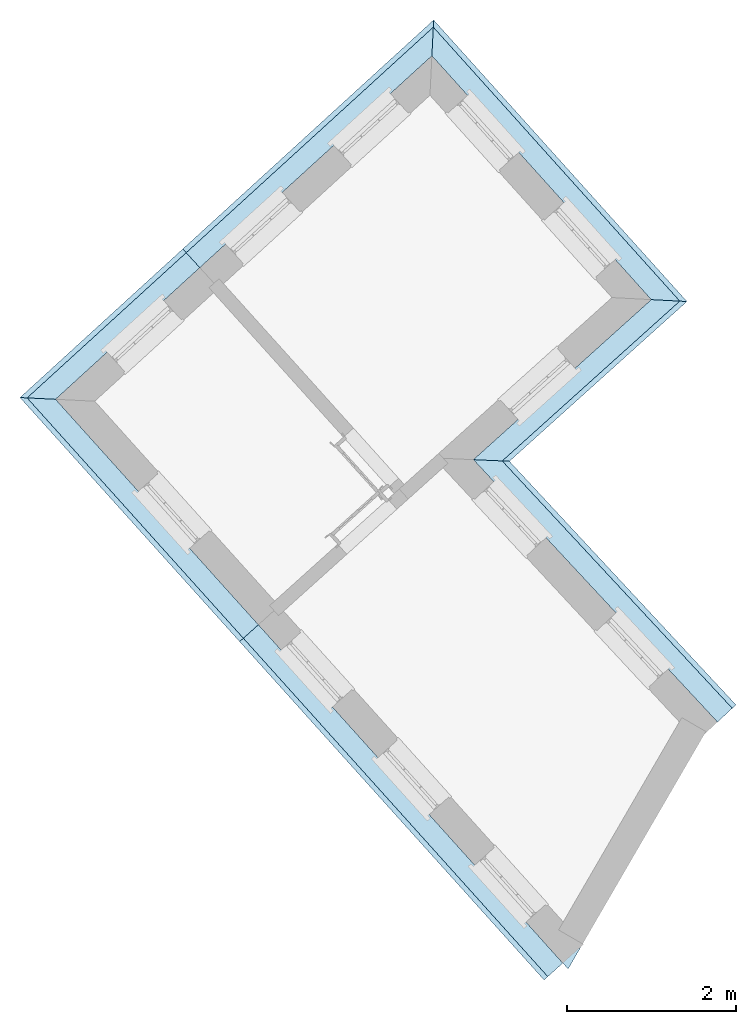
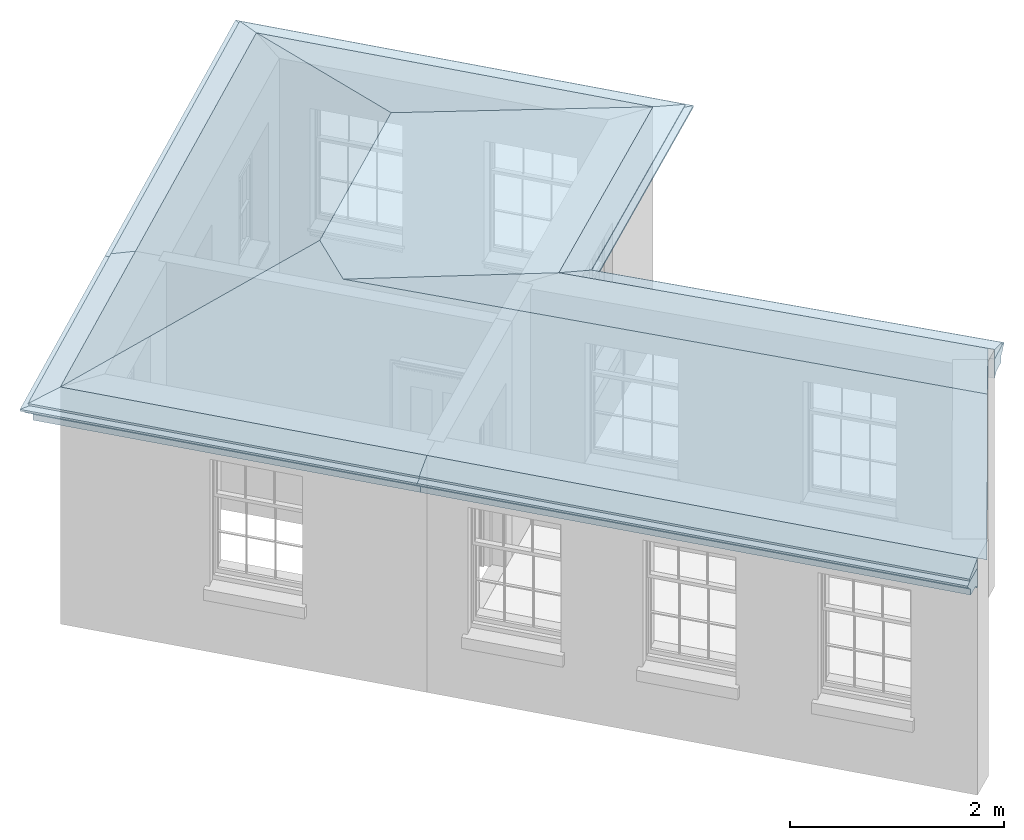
# One storey, part 3 of 3: 15 roofs.
"""IFC4 building model written with IfcOpenShell, lengths in metres."""

from ifc_helpers import new_model, si_unit, frame, origin, origin_with_axes, place, context, subcontext, project, spatial, polyline, outline, extrude, boolean, clip, halfspace, faceted_brep, material_profile, profile_set, profile_usage, type_object, element, save


model = new_model("IFC4")

# Units and contexts
model_context = context("Model", 3, world=origin_with_axes())
body_context = subcontext(model_context, "Body", "Model", "MODEL_VIEW")
ifc_project = project(units=[si_unit("PLANEANGLEUNIT", "RADIAN"), si_unit("MASSUNIT", "GRAM", prefix="KILO"), si_unit("FORCEUNIT", "NEWTON", prefix="KILO"), si_unit("LENGTHUNIT", "METRE"), si_unit("AREAUNIT", "SQUARE_METRE"), si_unit("VOLUMEUNIT", "CUBIC_METRE")], contexts=[model_context, model_context])

# Sites, building, storey
site_1_placement = place(None, origin_with_axes())
site_1 = spatial("IfcSite", under=ifc_project, at=site_1_placement, Name="Tamar")
site_2_placement = place(site_1_placement, origin_with_axes())
site_2 = spatial("IfcSite", under=site_1, at=site_2_placement, Name="Site plot-7", CompositionType="ELEMENT")
building_placement = place(None, origin_with_axes())
building = spatial("IfcBuilding", under=site_2, at=building_placement, Name="Building plot-7", CompositionType="ELEMENT")
storey_placement = place(None, frame((0.0, 0.0, 31.85), z_axis=(0.0, 0.0, 1.0), x_axis=(1.0, 0.0, 0.0)))
storey = spatial("IfcBuildingStorey", under=building, at=storey_placement, Name="plot-7 2", CompositionType="ELEMENT", Elevation=31.85)

# Roofs
ifc_material_profile_1 = material_profile(None, outline(polyline([(0.25, -0.11), (0.25, -0.33), (0.265, -0.33), (0.268, -0.318), (0.274, -0.309), (0.283, -0.303), (0.295, -0.3), (0.295, -0.285), (0.455, -0.285), (0.455, -0.205), (0.47, -0.205), (0.47, -0.19), (0.483, -0.189), (0.494, -0.186), (0.506, -0.179), (0.514, -0.17), (0.52, -0.16), (0.529, -0.149), (0.539, -0.143), (0.55, -0.14), (0.55, -0.12), (0.48, -0.11), (0.25, -0.11)])))
ifc_profile_set_1 = profile_set([ifc_material_profile_1])
ifc_profile_usage_1 = profile_usage(ifc_profile_set_1)
roof_type_1 = type_object("IfcRoofType", Name="eaves_0", PredefinedType="FREEFORM", material=ifc_profile_set_1)
roof_1_placement = place(storey_placement, frame((243.040089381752, 287.183568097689, 2.7), z_axis=(0.68108177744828, -0.732207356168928, 0.0), x_axis=(0.732207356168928, 0.68108177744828, 0.0)))
element("IfcRoof", 1, at=roof_1_placement, inside=storey, type_object=roof_type_1, material=ifc_profile_usage_1, Name="eaves_0", context=body_context, shape_type="Clipping", body=[
    clip(clip(extrude(outline(polyline([(0.25, -0.11), (0.25, -0.33), (0.265, -0.33), (0.268, -0.318), (0.274, -0.309), (0.283, -0.303), (0.295, -0.3), (0.295, -0.285), (0.455, -0.285), (0.455, -0.205), (0.47, -0.205), (0.47, -0.19), (0.483, -0.189), (0.494, -0.186), (0.506, -0.179), (0.514, -0.17), (0.52, -0.16), (0.529, -0.149), (0.539, -0.143), (0.55, -0.14), (0.55, -0.12), (0.48, -0.11), (0.25, -0.11)])), origin_with_axes(), (0.0, 0.0, 1.0), 6.5064128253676), halfspace(frame((0.0, 0.0, 5.5064128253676), z_axis=(-4.50212443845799e-15, 0.0, -1.0), x_axis=(0.0, 1.0, 0.0)), True)), halfspace(frame((0.0, 0.0, 1.0), z_axis=(0.712941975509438, 0.0, -0.701223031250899), x_axis=(0.0, 1.0, 0.0)), False)),
])
ifc_profile_usage_2 = profile_usage(ifc_profile_set_1)
roof_2_placement = place(storey_placement, frame((246.578035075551, 289.021766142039, 2.7), z_axis=(-0.743394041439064, -0.668853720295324, 0.0), x_axis=(0.668853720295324, -0.743394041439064, 0.0)))
element("IfcRoof", 2, at=roof_2_placement, inside=storey, type_object=roof_type_1, material=ifc_profile_usage_2, Name="eaves_0", context=body_context, shape_type="Clipping", body=[
    clip(clip(extrude(outline(polyline([(0.25, -0.11), (0.25, -0.33), (0.265, -0.33), (0.268, -0.318), (0.274, -0.309), (0.283, -0.303), (0.295, -0.3), (0.295, -0.285), (0.455, -0.285), (0.455, -0.205), (0.47, -0.205), (0.47, -0.19), (0.483, -0.189), (0.494, -0.186), (0.506, -0.179), (0.514, -0.17), (0.52, -0.16), (0.529, -0.149), (0.539, -0.143), (0.55, -0.14), (0.55, -0.12), (0.48, -0.11), (0.25, -0.11)])), origin_with_axes(), (0.0, 0.0, 1.0), 4.84300082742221), halfspace(frame((0.0, 0.0, 3.84300082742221), z_axis=(-0.712941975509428, 0.0, -0.70122303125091), x_axis=(0.0, 1.0, 0.0)), True)), halfspace(frame((0.0, 0.0, 1.0), z_axis=(-0.707106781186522, 0.0, -0.707106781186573), x_axis=(0.0, 1.0, 0.0)), False)),
])
ifc_profile_usage_3 = profile_usage(ifc_profile_set_1)
roof_3_placement = place(storey_placement, frame((242.898752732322, 291.615990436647, 2.7), z_axis=(0.668853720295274, -0.743394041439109, 0.0), x_axis=(0.743394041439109, 0.668853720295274, 0.0)))
element("IfcRoof", 3, at=roof_3_placement, inside=storey, type_object=roof_type_1, material=ifc_profile_usage_3, Name="eaves_0", context=body_context, shape_type="Clipping", body=[
    clip(clip(extrude(outline(polyline([(0.25, -0.11), (0.25, -0.33), (0.265, -0.33), (0.268, -0.318), (0.274, -0.309), (0.283, -0.303), (0.295, -0.3), (0.295, -0.285), (0.455, -0.285), (0.455, -0.205), (0.47, -0.205), (0.47, -0.19), (0.483, -0.189), (0.494, -0.186), (0.506, -0.179), (0.514, -0.17), (0.52, -0.16), (0.529, -0.149), (0.539, -0.143), (0.55, -0.14), (0.55, -0.12), (0.48, -0.11), (0.25, -0.11)])), origin_with_axes(), (0.0, 0.0, 1.0), 5.38943256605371), halfspace(frame((0.0, 0.0, 4.38943256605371), z_axis=(0.707106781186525, 0.0, -0.70710678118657), x_axis=(0.0, 1.0, 0.0)), True)), halfspace(frame((0.0, 0.0, 1.0), z_axis=(-0.709619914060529, 0.0, -0.704584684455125), x_axis=(0.0, 1.0, 0.0)), False)),
])
ifc_profile_usage_4 = profile_usage(ifc_profile_set_1)
roof_4_placement = place(storey_placement, frame((240.261399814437, 287.855026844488, 2.7), z_axis=(0.738612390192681, 0.674130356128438, 0.0), x_axis=(-0.674130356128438, 0.738612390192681, 0.0)))
element("IfcRoof", 4, at=roof_4_placement, inside=storey, type_object=roof_type_1, material=ifc_profile_usage_4, Name="eaves_0", context=body_context, shape_type="Clipping", body=[
    clip(clip(extrude(outline(polyline([(0.25, -0.11), (0.25, -0.33), (0.265, -0.33), (0.268, -0.318), (0.274, -0.309), (0.283, -0.303), (0.295, -0.3), (0.295, -0.285), (0.455, -0.285), (0.455, -0.205), (0.47, -0.205), (0.47, -0.19), (0.483, -0.189), (0.494, -0.186), (0.506, -0.179), (0.514, -0.17), (0.52, -0.16), (0.529, -0.149), (0.539, -0.143), (0.55, -0.14), (0.55, -0.12), (0.48, -0.11), (0.25, -0.11)])), origin_with_axes(), (0.0, 0.0, 1.0), 5.47624042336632), halfspace(frame((0.0, 0.0, 4.47624042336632), z_axis=(0.709619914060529, 0.0, -0.704584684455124), x_axis=(0.0, 1.0, 0.0)), True)), halfspace(frame((0.0, 0.0, 1.0), z_axis=(-2.13775144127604e-14, 0.0, -1.0), x_axis=(0.0, 1.0, 0.0)), False)),
])
ifc_profile_usage_5 = profile_usage(ifc_profile_set_1)
roof_5_placement = place(storey_placement, frame((238.733341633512, 286.460370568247, 2.7), z_axis=(0.738612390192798, 0.67413035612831, 0.0), x_axis=(-0.67413035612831, 0.738612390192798, 0.0)))
element("IfcRoof", 5, at=roof_5_placement, inside=storey, type_object=roof_type_1, material=ifc_profile_usage_5, Name="eaves_0", context=body_context, shape_type="Clipping", body=[
    clip(clip(extrude(outline(polyline([(0.25, -0.11), (0.25, -0.33), (0.265, -0.33), (0.268, -0.318), (0.274, -0.309), (0.283, -0.303), (0.295, -0.3), (0.295, -0.285), (0.455, -0.285), (0.455, -0.205), (0.47, -0.205), (0.47, -0.19), (0.483, -0.189), (0.494, -0.186), (0.506, -0.179), (0.514, -0.17), (0.52, -0.16), (0.529, -0.149), (0.539, -0.143), (0.55, -0.14), (0.55, -0.12), (0.48, -0.11), (0.25, -0.11)])), origin_with_axes(), (0.0, 0.0, 1.0), 4.0688228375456), halfspace(frame((0.0, 0.0, 3.0688228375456), z_axis=(-1.94572306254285e-13, 0.0, -1.0), x_axis=(0.0, 1.0, 0.0)), True)), halfspace(frame((0.0, 0.0, 1.0), z_axis=(-0.704584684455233, 0.0, -0.709619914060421), x_axis=(0.0, 1.0, 0.0)), False)),
])
ifc_profile_usage_6 = profile_usage(ifc_profile_set_1)
roof_6_placement = place(storey_placement, frame((242.381432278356, 283.900776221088, 2.7), z_axis=(-0.668853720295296, 0.743394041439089, 0.0), x_axis=(-0.743394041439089, -0.668853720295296, 0.0)))
element("IfcRoof", 6, at=roof_6_placement, inside=storey, type_object=roof_type_1, material=ifc_profile_usage_6, Name="eaves_0", context=body_context, shape_type="Clipping", body=[
    clip(clip(extrude(outline(polyline([(0.25, -0.11), (0.25, -0.33), (0.265, -0.33), (0.268, -0.318), (0.274, -0.309), (0.283, -0.303), (0.295, -0.3), (0.295, -0.285), (0.455, -0.285), (0.455, -0.205), (0.47, -0.205), (0.47, -0.19), (0.483, -0.189), (0.494, -0.186), (0.506, -0.179), (0.514, -0.17), (0.52, -0.16), (0.529, -0.149), (0.539, -0.143), (0.55, -0.14), (0.55, -0.12), (0.48, -0.11), (0.25, -0.11)])), origin_with_axes(), (0.0, 0.0, 1.0), 5.34994703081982), halfspace(frame((0.0, 0.0, 4.34994703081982), z_axis=(0.70458468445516, 0.0, -0.709619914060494), x_axis=(0.0, 1.0, 0.0)), True)), halfspace(frame((0.0, 0.0, 1.0), z_axis=(-2.49302280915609e-14, 0.0, -1.0), x_axis=(0.0, 1.0, 0.0)), False)),
])
ifc_profile_usage_7 = profile_usage(ifc_profile_set_1)
roof_7_placement = place(storey_placement, frame((245.993584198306, 279.886068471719, 2.7), z_axis=(-0.668853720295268, 0.743394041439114, 0.0), x_axis=(-0.743394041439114, -0.668853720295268, 0.0)))
element("IfcRoof", 7, at=roof_7_placement, inside=storey, type_object=roof_type_1, material=ifc_profile_usage_7, Name="eaves_0", context=body_context, shape_type="Clipping", body=[
    clip(clip(extrude(outline(polyline([(0.25, -0.11), (0.25, -0.33), (0.265, -0.33), (0.268, -0.318), (0.274, -0.309), (0.283, -0.303), (0.295, -0.3), (0.295, -0.285), (0.455, -0.285), (0.455, -0.205), (0.47, -0.205), (0.47, -0.19), (0.483, -0.189), (0.494, -0.186), (0.506, -0.179), (0.514, -0.17), (0.52, -0.16), (0.529, -0.149), (0.539, -0.143), (0.55, -0.14), (0.55, -0.12), (0.48, -0.11), (0.25, -0.11)])), origin_with_axes(), (0.0, 0.0, 1.0), 7.4005110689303), halfspace(frame((0.0, 0.0, 6.4005110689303), z_axis=(-6.22337217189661e-14, 0.0, -1.0), x_axis=(0.0, 1.0, 0.0)), True)), halfspace(frame((0.0, 0.0, 1.0), z_axis=(-9.49410759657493e-16, 0.0, -1.0), x_axis=(0.0, 1.0, 0.0)), False)),
])
ifc_material_profile_2 = material_profile(None, outline(polyline([(0.25, -0.11), (0.48, -0.11), (0.49, -0.08), (0.25, 0.0), (0.25, -0.11)])))
ifc_profile_set_2 = profile_set([ifc_material_profile_2])
ifc_profile_usage_8 = profile_usage(ifc_profile_set_2)
roof_type_2 = type_object("IfcRoofType", Name="eaves_1", PredefinedType="FREEFORM", material=ifc_profile_set_2)
roof_8_placement = place(storey_placement, frame((243.040089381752, 287.183568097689, 2.7), z_axis=(0.68108177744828, -0.732207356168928, 0.0), x_axis=(0.732207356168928, 0.68108177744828, 0.0)))
element("IfcRoof", 8, at=roof_8_placement, inside=storey, type_object=roof_type_2, material=ifc_profile_usage_8, Name="eaves_1", context=body_context, shape_type="Clipping", body=[
    clip(clip(extrude(outline(polyline([(0.25, -0.11), (0.48, -0.11), (0.49, -0.08), (0.25, 0.0), (0.25, -0.11)])), origin_with_axes(), (0.0, 0.0, 1.0), 6.5064128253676), halfspace(frame((0.0, 0.0, 5.5064128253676), z_axis=(-4.50212443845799e-15, 0.0, -1.0), x_axis=(0.0, 1.0, 0.0)), True)), halfspace(frame((0.0, 0.0, 1.0), z_axis=(0.712941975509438, 0.0, -0.701223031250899), x_axis=(0.0, 1.0, 0.0)), False)),
])
ifc_profile_usage_9 = profile_usage(ifc_profile_set_2)
roof_9_placement = place(storey_placement, frame((246.578035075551, 289.021766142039, 2.7), z_axis=(-0.743394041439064, -0.668853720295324, 0.0), x_axis=(0.668853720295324, -0.743394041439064, 0.0)))
element("IfcRoof", 9, at=roof_9_placement, inside=storey, type_object=roof_type_2, material=ifc_profile_usage_9, Name="eaves_1", context=body_context, shape_type="Clipping", body=[
    clip(clip(extrude(outline(polyline([(0.25, -0.11), (0.48, -0.11), (0.49, -0.08), (0.25, 0.0), (0.25, -0.11)])), origin_with_axes(), (0.0, 0.0, 1.0), 4.84300082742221), halfspace(frame((0.0, 0.0, 3.84300082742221), z_axis=(-0.712941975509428, 0.0, -0.70122303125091), x_axis=(0.0, 1.0, 0.0)), True)), halfspace(frame((0.0, 0.0, 1.0), z_axis=(-0.707106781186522, 0.0, -0.707106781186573), x_axis=(0.0, 1.0, 0.0)), False)),
])
ifc_profile_usage_10 = profile_usage(ifc_profile_set_2)
roof_10_placement = place(storey_placement, frame((242.898752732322, 291.615990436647, 2.7), z_axis=(0.668853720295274, -0.743394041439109, 0.0), x_axis=(0.743394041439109, 0.668853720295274, 0.0)))
element("IfcRoof", 10, at=roof_10_placement, inside=storey, type_object=roof_type_2, material=ifc_profile_usage_10, Name="eaves_1", context=body_context, shape_type="Clipping", body=[
    clip(clip(extrude(outline(polyline([(0.25, -0.11), (0.48, -0.11), (0.49, -0.08), (0.25, 0.0), (0.25, -0.11)])), origin_with_axes(), (0.0, 0.0, 1.0), 5.38943256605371), halfspace(frame((0.0, 0.0, 4.38943256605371), z_axis=(0.707106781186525, 0.0, -0.70710678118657), x_axis=(0.0, 1.0, 0.0)), True)), halfspace(frame((0.0, 0.0, 1.0), z_axis=(-0.709619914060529, 0.0, -0.704584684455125), x_axis=(0.0, 1.0, 0.0)), False)),
])
ifc_profile_usage_11 = profile_usage(ifc_profile_set_2)
roof_11_placement = place(storey_placement, frame((240.261399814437, 287.855026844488, 2.7), z_axis=(0.738612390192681, 0.674130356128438, 0.0), x_axis=(-0.674130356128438, 0.738612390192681, 0.0)))
element("IfcRoof", 11, at=roof_11_placement, inside=storey, type_object=roof_type_2, material=ifc_profile_usage_11, Name="eaves_1", context=body_context, shape_type="Clipping", body=[
    clip(clip(extrude(outline(polyline([(0.25, -0.11), (0.48, -0.11), (0.49, -0.08), (0.25, 0.0), (0.25, -0.11)])), origin_with_axes(), (0.0, 0.0, 1.0), 5.47624042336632), halfspace(frame((0.0, 0.0, 4.47624042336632), z_axis=(0.709619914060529, 0.0, -0.704584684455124), x_axis=(0.0, 1.0, 0.0)), True)), halfspace(frame((0.0, 0.0, 1.0), z_axis=(-2.13775144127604e-14, 0.0, -1.0), x_axis=(0.0, 1.0, 0.0)), False)),
])
ifc_profile_usage_12 = profile_usage(ifc_profile_set_2)
roof_12_placement = place(storey_placement, frame((238.733341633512, 286.460370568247, 2.7), z_axis=(0.738612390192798, 0.67413035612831, 0.0), x_axis=(-0.67413035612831, 0.738612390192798, 0.0)))
element("IfcRoof", 12, at=roof_12_placement, inside=storey, type_object=roof_type_2, material=ifc_profile_usage_12, Name="eaves_1", context=body_context, shape_type="Clipping", body=[
    clip(clip(extrude(outline(polyline([(0.25, -0.11), (0.48, -0.11), (0.49, -0.08), (0.25, 0.0), (0.25, -0.11)])), origin_with_axes(), (0.0, 0.0, 1.0), 4.0688228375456), halfspace(frame((0.0, 0.0, 3.0688228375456), z_axis=(-1.94572306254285e-13, 0.0, -1.0), x_axis=(0.0, 1.0, 0.0)), True)), halfspace(frame((0.0, 0.0, 1.0), z_axis=(-0.704584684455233, 0.0, -0.709619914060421), x_axis=(0.0, 1.0, 0.0)), False)),
])
ifc_profile_usage_13 = profile_usage(ifc_profile_set_2)
roof_13_placement = place(storey_placement, frame((242.381432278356, 283.900776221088, 2.7), z_axis=(-0.668853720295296, 0.743394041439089, 0.0), x_axis=(-0.743394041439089, -0.668853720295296, 0.0)))
element("IfcRoof", 13, at=roof_13_placement, inside=storey, type_object=roof_type_2, material=ifc_profile_usage_13, Name="eaves_1", context=body_context, shape_type="Clipping", body=[
    clip(clip(extrude(outline(polyline([(0.25, -0.11), (0.48, -0.11), (0.49, -0.08), (0.25, 0.0), (0.25, -0.11)])), origin_with_axes(), (0.0, 0.0, 1.0), 5.34994703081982), halfspace(frame((0.0, 0.0, 4.34994703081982), z_axis=(0.70458468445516, 0.0, -0.709619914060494), x_axis=(0.0, 1.0, 0.0)), True)), halfspace(frame((0.0, 0.0, 1.0), z_axis=(-2.49302280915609e-14, 0.0, -1.0), x_axis=(0.0, 1.0, 0.0)), False)),
])
ifc_profile_usage_14 = profile_usage(ifc_profile_set_2)
roof_14_placement = place(storey_placement, frame((245.993584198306, 279.886068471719, 2.7), z_axis=(-0.668853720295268, 0.743394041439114, 0.0), x_axis=(-0.743394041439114, -0.668853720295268, 0.0)))
element("IfcRoof", 14, at=roof_14_placement, inside=storey, type_object=roof_type_2, material=ifc_profile_usage_14, Name="eaves_1", context=body_context, shape_type="Clipping", body=[
    clip(clip(extrude(outline(polyline([(0.25, -0.11), (0.48, -0.11), (0.49, -0.08), (0.25, 0.0), (0.25, -0.11)])), origin_with_axes(), (0.0, 0.0, 1.0), 7.4005110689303), halfspace(frame((0.0, 0.0, 6.4005110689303), z_axis=(-6.22337217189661e-14, 0.0, -1.0), x_axis=(0.0, 1.0, 0.0)), True)), halfspace(frame((0.0, 0.0, 1.0), z_axis=(-9.49410759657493e-16, 0.0, -1.0), x_axis=(0.0, 1.0, 0.0)), False)),
])
roof_15_placement = place(building_placement, origin())
element("IfcRoof", 15, at=roof_15_placement, inside=storey, Name="Roof", PredefinedType="FREEFORM", context=body_context, shape_type="CSG", body=[
    boolean("UNION", faceted_brep([(239.120079, 287.151817, 34.55), (245.201333, 280.392838, 34.55), (246.067577, 281.885008, 35.23014), (241.34968, 287.042095, 35.206149), (246.92933, 283.369444, 34.55), (241.440818, 289.269952, 34.55)], [[[0, 1, 2, 3]], [[4, 5, 3, 2]], [[5, 4, 1, 0]], [[5, 0, 3]], [[1, 4, 2]]]), faceted_brep([(241.693943, 284.291108, 34.55), (246.187703, 288.334277, 34.55), (243.449803, 288.478787, 35.353029), (241.837876, 287.01807, 35.34982), (243.585047, 291.226986, 34.55), (239.120079, 287.151817, 34.55)], [[[0, 1, 2, 3]], [[4, 5, 3, 2]], [[5, 4, 1, 0]], [[5, 0, 3]], [[1, 4, 2]]])),
])

save(model, "model.ifc")
